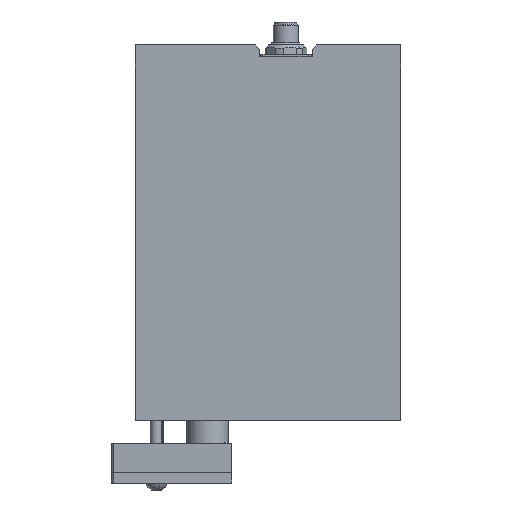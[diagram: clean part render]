
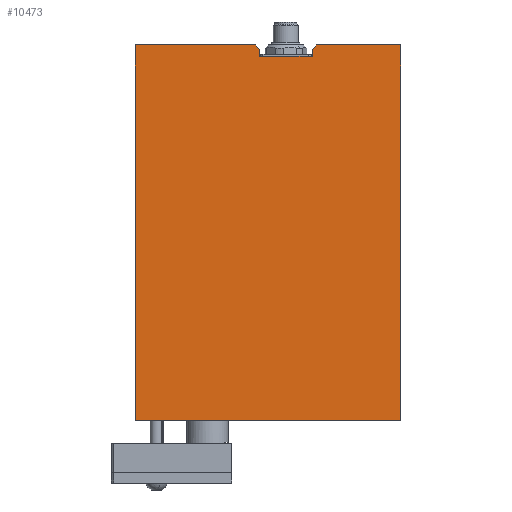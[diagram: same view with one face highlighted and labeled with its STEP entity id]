
A CAD part, left-side view. The second image highlights one B-rep face of the part: STEP entity #10473.
In plain terms, the highlighted planar face has unit normal (-1, 0, 0).
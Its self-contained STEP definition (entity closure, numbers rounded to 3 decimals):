
#164 = LINE ( 'NONE', #6103, #8367 ) ;
#425 = DIRECTION ( 'NONE',  ( 0., 0., -1. ) ) ;
#430 = VECTOR ( 'NONE', #2549, 1000. ) ;
#539 = DIRECTION ( 'NONE',  ( 0., 0., 1. ) ) ;
#659 = CARTESIAN_POINT ( 'NONE',  ( 2670.432, 3.9, -830.594 ) ) ;
#707 = EDGE_CURVE ( 'NONE', #2864, #3091, #1989, .T. ) ;
#763 = DIRECTION ( 'NONE',  ( 0., 0.707, 0.707 ) ) ;
#1060 = CARTESIAN_POINT ( 'NONE',  ( 2670.432, 3.9, -830.594 ) ) ;
#1358 = LINE ( 'NONE', #11797, #1955 ) ;
#1572 = DIRECTION ( 'NONE',  ( 0., 1., 0. ) ) ;
#1655 = VECTOR ( 'NONE', #9774, 1000. ) ;
#1816 = CARTESIAN_POINT ( 'NONE',  ( 2670.432, 3.9, -830.594 ) ) ;
#1955 = VECTOR ( 'NONE', #3545, 1000. ) ;
#1989 = LINE ( 'NONE', #6225, #7286 ) ;
#2139 = EDGE_CURVE ( 'NONE', #5568, #8718, #9129, .T. ) ;
#2144 = EDGE_CURVE ( 'NONE', #9015, #10352, #1358, .T. ) ;
#2376 = CARTESIAN_POINT ( 'NONE',  ( 2670.432, 63.5, -1005.094 ) ) ;
#2406 = PLANE ( 'NONE',  #4378 ) ;
#2473 = LINE ( 'NONE', #8082, #430 ) ;
#2491 = EDGE_CURVE ( 'NONE', #7322, #8718, #5734, .T. ) ;
#2501 = LINE ( 'NONE', #2376, #7206 ) ;
#2549 = DIRECTION ( 'NONE',  ( 0., 0., 1. ) ) ;
#2864 = VERTEX_POINT ( 'NONE', #8653 ) ;
#3091 = VERTEX_POINT ( 'NONE', #11028 ) ;
#3195 = CARTESIAN_POINT ( 'NONE',  ( 2670.432, 33.45, -881.644 ) ) ;
#3545 = DIRECTION ( 'NONE',  ( 0., -1., 0. ) ) ;
#3589 = ORIENTED_EDGE ( 'NONE', *, *, #4171, .T. ) ;
#3644 = ORIENTED_EDGE ( 'NONE', *, *, #2491, .T. ) ;
#3760 = VERTEX_POINT ( 'NONE', #8135 ) ;
#3998 = LINE ( 'NONE', #5513, #4431 ) ;
#4111 = ORIENTED_EDGE ( 'NONE', *, *, #9100, .T. ) ;
#4171 = EDGE_CURVE ( 'NONE', #3091, #9015, #2501, .T. ) ;
#4249 = DIRECTION ( 'NONE',  ( -1., 0., 0. ) ) ;
#4378 = AXIS2_PLACEMENT_3D ( 'NONE', #8866, #4249, #9775 ) ;
#4381 = DIRECTION ( 'NONE',  ( 0., 0., 1. ) ) ;
#4431 = VECTOR ( 'NONE', #9636, 1000. ) ;
#4612 = LINE ( 'NONE', #1816, #6528 ) ;
#4879 = ORIENTED_EDGE ( 'NONE', *, *, #707, .T. ) ;
#5473 = EDGE_CURVE ( 'NONE', #6920, #7322, #3998, .T. ) ;
#5513 = CARTESIAN_POINT ( 'NONE',  ( 2670.432, 63.5, -825.094 ) ) ;
#5568 = VERTEX_POINT ( 'NONE', #6747 ) ;
#5734 = LINE ( 'NONE', #3195, #1655 ) ;
#6103 = CARTESIAN_POINT ( 'NONE',  ( 2670.432, -42.05, -873.044 ) ) ;
#6111 = ORIENTED_EDGE ( 'NONE', *, *, #2139, .F. ) ;
#6170 = EDGE_CURVE ( 'NONE', #3760, #2864, #164, .T. ) ;
#6225 = CARTESIAN_POINT ( 'NONE',  ( 2670.432, 63.5, -825.094 ) ) ;
#6520 = CARTESIAN_POINT ( 'NONE',  ( 2670.432, -63.5, -825.094 ) ) ;
#6528 = VECTOR ( 'NONE', #8508, 1000. ) ;
#6747 = CARTESIAN_POINT ( 'NONE',  ( 2670.432, -21.1, -830.594 ) ) ;
#6871 = ORIENTED_EDGE ( 'NONE', *, *, #10272, .F. ) ;
#6898 = CARTESIAN_POINT ( 'NONE',  ( 2670.432, -23.1, -825.094 ) ) ;
#6920 = VERTEX_POINT ( 'NONE', #6520 ) ;
#6942 = VECTOR ( 'NONE', #4381, 1000. ) ;
#6968 = CARTESIAN_POINT ( 'NONE',  ( 2670.432, 63.5, -1005.094 ) ) ;
#7167 = ORIENTED_EDGE ( 'NONE', *, *, #2144, .T. ) ;
#7206 = VECTOR ( 'NONE', #425, 1000. ) ;
#7244 = CARTESIAN_POINT ( 'NONE',  ( 2670.432, -21.1, -827.094 ) ) ;
#7286 = VECTOR ( 'NONE', #1572, 1000. ) ;
#7322 = VERTEX_POINT ( 'NONE', #6898 ) ;
#7582 = EDGE_CURVE ( 'NONE', #10352, #6920, #2473, .T. ) ;
#7675 = CARTESIAN_POINT ( 'NONE',  ( 2670.432, -63.5, -1005.094 ) ) ;
#8082 = CARTESIAN_POINT ( 'NONE',  ( 2670.432, -63.5, -1005.094 ) ) ;
#8135 = CARTESIAN_POINT ( 'NONE',  ( 2670.432, 3.9, -827.094 ) ) ;
#8367 = VECTOR ( 'NONE', #763, 1000. ) ;
#8382 = ORIENTED_EDGE ( 'NONE', *, *, #5473, .T. ) ;
#8508 = DIRECTION ( 'NONE',  ( 0., -1., 0. ) ) ;
#8653 = CARTESIAN_POINT ( 'NONE',  ( 2670.432, 5.9, -825.094 ) ) ;
#8683 = ORIENTED_EDGE ( 'NONE', *, *, #6170, .T. ) ;
#8718 = VERTEX_POINT ( 'NONE', #7244 ) ;
#8866 = CARTESIAN_POINT ( 'NONE',  ( 2670.432, 0., -915.094 ) ) ;
#9015 = VERTEX_POINT ( 'NONE', #6968 ) ;
#9100 = EDGE_CURVE ( 'NONE', #11038, #3760, #11021, .T. ) ;
#9128 = CARTESIAN_POINT ( 'NONE',  ( 2670.432, -21.1, -830.594 ) ) ;
#9129 = LINE ( 'NONE', #9128, #6942 ) ;
#9636 = DIRECTION ( 'NONE',  ( 0., 1., 0. ) ) ;
#9754 = EDGE_LOOP ( 'NONE', ( #8382, #3644, #6111, #6871, #4111, #8683, #4879, #3589, #7167, #10765 ) ) ;
#9774 = DIRECTION ( 'NONE',  ( 0., 0.707, -0.707 ) ) ;
#9775 = DIRECTION ( 'NONE',  ( 0., 0., 1. ) ) ;
#10272 = EDGE_CURVE ( 'NONE', #11038, #5568, #4612, .T. ) ;
#10352 = VERTEX_POINT ( 'NONE', #7675 ) ;
#10473 = ADVANCED_FACE ( 'NONE', ( #12056 ), #2406, .T. ) ;
#10590 = VECTOR ( 'NONE', #539, 1000. ) ;
#10765 = ORIENTED_EDGE ( 'NONE', *, *, #7582, .T. ) ;
#11021 = LINE ( 'NONE', #659, #10590 ) ;
#11028 = CARTESIAN_POINT ( 'NONE',  ( 2670.432, 63.5, -825.094 ) ) ;
#11038 = VERTEX_POINT ( 'NONE', #1060 ) ;
#11797 = CARTESIAN_POINT ( 'NONE',  ( 2670.432, 63.5, -1005.094 ) ) ;
#12056 = FACE_OUTER_BOUND ( 'NONE', #9754, .T. ) ;
